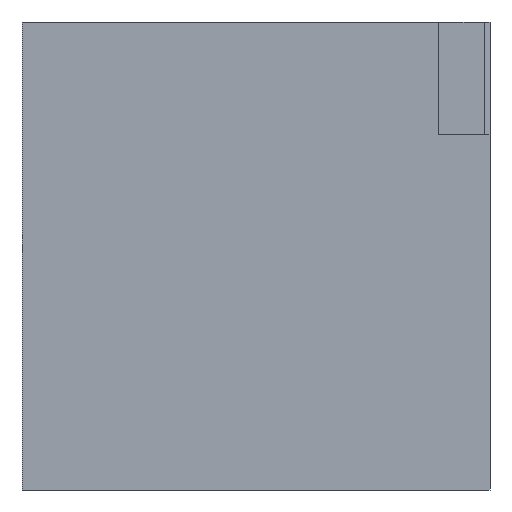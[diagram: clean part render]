
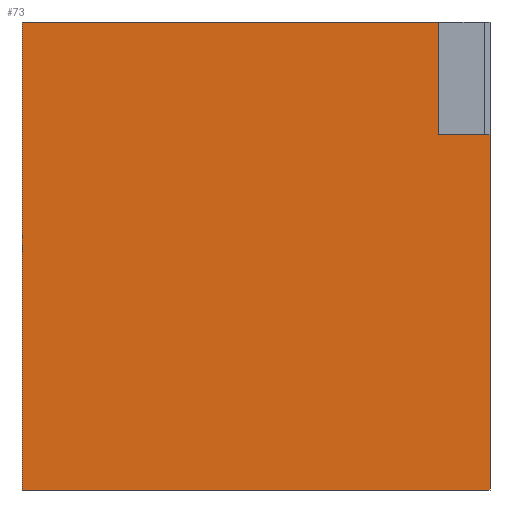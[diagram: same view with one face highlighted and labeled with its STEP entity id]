
A CAD part, left-side view. The second image highlights one B-rep face of the part: STEP entity #73.
In plain terms, the highlighted planar face has unit normal (-1, 0, 0).
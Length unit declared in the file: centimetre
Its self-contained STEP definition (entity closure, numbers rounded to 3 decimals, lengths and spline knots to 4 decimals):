
#18 = DIRECTION ( 'NONE',  ( 0., 0., -1. ) ) ;
#26 = LINE ( 'NONE', #863, #470 ) ;
#28 = CARTESIAN_POINT ( 'NONE',  ( 0., 1000., 1000. ) ) ;
#33 = ORIENTED_EDGE ( 'NONE', *, *, #429, .T. ) ;
#35 = CARTESIAN_POINT ( 'NONE',  ( 0., 1000., 0. ) ) ;
#37 = VECTOR ( 'NONE', #472, 100. ) ;
#55 = VECTOR ( 'NONE', #487, 100. ) ;
#59 = CARTESIAN_POINT ( 'NONE',  ( 0., 1000., 0. ) ) ;
#73 = ADVANCED_FACE ( 'NONE', ( #658 ), #649, .F. ) ;
#79 = LINE ( 'NONE', #273, #55 ) ;
#178 = VERTEX_POINT ( 'NONE', #204 ) ;
#182 = VECTOR ( 'NONE', #352, 100. ) ;
#195 = ORIENTED_EDGE ( 'NONE', *, *, #518, .F. ) ;
#199 = LINE ( 'NONE', #310, #182 ) ;
#204 = CARTESIAN_POINT ( 'NONE',  ( 0., 109.917, 758.9221 ) ) ;
#216 = CARTESIAN_POINT ( 'NONE',  ( 0., 1000., 1000. ) ) ;
#226 = AXIS2_PLACEMENT_3D ( 'NONE', #28, #449, #18 ) ;
#230 = CARTESIAN_POINT ( 'NONE',  ( 0., 0., 0. ) ) ;
#256 = LINE ( 'NONE', #35, #37 ) ;
#273 = CARTESIAN_POINT ( 'NONE',  ( 0., 0., 758.9221 ) ) ;
#282 = DIRECTION ( 'NONE',  ( 0., -1., 0. ) ) ;
#310 = CARTESIAN_POINT ( 'NONE',  ( 0., 1000., 1000. ) ) ;
#320 = EDGE_CURVE ( 'NONE', #392, #575, #256, .T. ) ;
#324 = VECTOR ( 'NONE', #656, 100. ) ;
#350 = VERTEX_POINT ( 'NONE', #879 ) ;
#352 = DIRECTION ( 'NONE',  ( 0., 0., -1. ) ) ;
#373 = VERTEX_POINT ( 'NONE', #390 ) ;
#390 = CARTESIAN_POINT ( 'NONE',  ( 0., 109.917, 1000. ) ) ;
#392 = VERTEX_POINT ( 'NONE', #59 ) ;
#429 = EDGE_CURVE ( 'NONE', #440, #392, #199, .T. ) ;
#440 = VERTEX_POINT ( 'NONE', #216 ) ;
#449 = DIRECTION ( 'NONE',  ( 1., 0., 0. ) ) ;
#456 = EDGE_CURVE ( 'NONE', #178, #350, #79, .T. ) ;
#470 = VECTOR ( 'NONE', #776, 100. ) ;
#472 = DIRECTION ( 'NONE',  ( 0., -1., 0. ) ) ;
#487 = DIRECTION ( 'NONE',  ( 0., -1., 0. ) ) ;
#505 = VECTOR ( 'NONE', #282, 100. ) ;
#518 = EDGE_CURVE ( 'NONE', #440, #373, #907, .T. ) ;
#564 = EDGE_CURVE ( 'NONE', #350, #575, #585, .T. ) ;
#575 = VERTEX_POINT ( 'NONE', #230 ) ;
#585 = LINE ( 'NONE', #713, #324 ) ;
#647 = EDGE_CURVE ( 'NONE', #373, #178, #26, .T. ) ;
#649 = PLANE ( 'NONE',  #226 ) ;
#656 = DIRECTION ( 'NONE',  ( 0., 0., -1. ) ) ;
#658 = FACE_OUTER_BOUND ( 'NONE', #820, .T. ) ;
#682 = ORIENTED_EDGE ( 'NONE', *, *, #456, .F. ) ;
#707 = CARTESIAN_POINT ( 'NONE',  ( 0., 1000., 1000. ) ) ;
#713 = CARTESIAN_POINT ( 'NONE',  ( 0., 0., 1000. ) ) ;
#747 = ORIENTED_EDGE ( 'NONE', *, *, #647, .F. ) ;
#776 = DIRECTION ( 'NONE',  ( 0., 0., -1. ) ) ;
#788 = ORIENTED_EDGE ( 'NONE', *, *, #564, .F. ) ;
#820 = EDGE_LOOP ( 'NONE', ( #788, #682, #747, #195, #33, #856 ) ) ;
#856 = ORIENTED_EDGE ( 'NONE', *, *, #320, .T. ) ;
#863 = CARTESIAN_POINT ( 'NONE',  ( 0., 109.917, 758.9221 ) ) ;
#879 = CARTESIAN_POINT ( 'NONE',  ( 0., 0., 758.9221 ) ) ;
#907 = LINE ( 'NONE', #707, #505 ) ;
